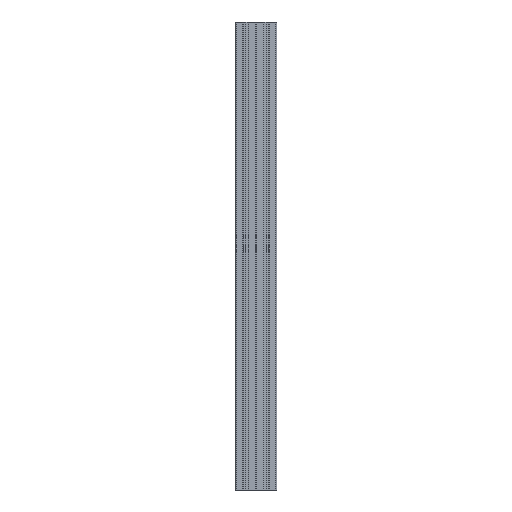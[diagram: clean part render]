
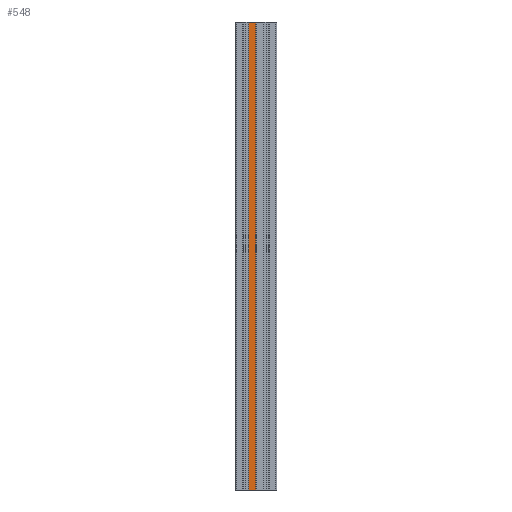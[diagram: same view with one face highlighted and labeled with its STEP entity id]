
A CAD part, front view. The second image highlights one B-rep face of the part: STEP entity #548.
In plain terms, the highlighted planar face has unit normal (0, -1, 0).
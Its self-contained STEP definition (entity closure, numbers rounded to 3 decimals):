
#213 = VERTEX_POINT ( 'NONE', #4164 ) ;
#223 = VERTEX_POINT ( 'NONE', #4521 ) ;
#271 = VERTEX_POINT ( 'NONE', #4141 ) ;
#405 = VERTEX_POINT ( 'NONE', #4376 ) ;
#548 = ADVANCED_FACE ( 'NONE', ( #3568 ), #3973, .F. ) ;
#738 = LINE ( 'NONE', #1724, #846 ) ;
#846 = VECTOR ( 'NONE', #1723, 1000. ) ;
#1664 = DIRECTION ( 'NONE',  ( 0., 0., 1. ) ) ;
#1723 = DIRECTION ( 'NONE',  ( -1., 0., 0. ) ) ;
#1724 = CARTESIAN_POINT ( 'NONE',  ( -16., -22., 0. ) ) ;
#1814 = CARTESIAN_POINT ( 'NONE',  ( -0.3, -22., -1000. ) ) ;
#2202 = CARTESIAN_POINT ( 'NONE',  ( -16., -22., -1000. ) ) ;
#2203 = DIRECTION ( 'NONE',  ( 0., 0., 1. ) ) ;
#2593 = AXIS2_PLACEMENT_3D ( 'NONE', #3993, #4669, #4426 ) ;
#2605 = EDGE_CURVE ( 'NONE', #405, #223, #3152, .T. ) ;
#2664 = EDGE_CURVE ( 'NONE', #405, #213, #3227, .T. ) ;
#2852 = DIRECTION ( 'NONE',  ( -1., 0., 0. ) ) ;
#2855 = CARTESIAN_POINT ( 'NONE',  ( -16., -22., -1000. ) ) ;
#2989 = VECTOR ( 'NONE', #1664, 1000. ) ;
#3151 = VECTOR ( 'NONE', #2852, 1000. ) ;
#3152 = LINE ( 'NONE', #2855, #3151 ) ;
#3227 = LINE ( 'NONE', #1814, #2989 ) ;
#3257 = VECTOR ( 'NONE', #2203, 1000. ) ;
#3350 = LINE ( 'NONE', #2202, #3257 ) ;
#3568 = FACE_OUTER_BOUND ( 'NONE', #6687, .T. ) ;
#3650 = EDGE_CURVE ( 'NONE', #223, #271, #3350, .T. ) ;
#3700 = EDGE_CURVE ( 'NONE', #213, #271, #738, .T. ) ;
#3973 = PLANE ( 'NONE',  #2593 ) ;
#3993 = CARTESIAN_POINT ( 'NONE',  ( -16., -22., -1000. ) ) ;
#4141 = CARTESIAN_POINT ( 'NONE',  ( -16., -22., 0. ) ) ;
#4164 = CARTESIAN_POINT ( 'NONE',  ( -0.3, -22., 0. ) ) ;
#4376 = CARTESIAN_POINT ( 'NONE',  ( -0.3, -22., -1000. ) ) ;
#4426 = DIRECTION ( 'NONE',  ( -1., 0., 0. ) ) ;
#4521 = CARTESIAN_POINT ( 'NONE',  ( -16., -22., -1000. ) ) ;
#4669 = DIRECTION ( 'NONE',  ( 0., 1., 0. ) ) ;
#5907 = ORIENTED_EDGE ( 'NONE', *, *, #3650, .F. ) ;
#6233 = ORIENTED_EDGE ( 'NONE', *, *, #3700, .T. ) ;
#6353 = ORIENTED_EDGE ( 'NONE', *, *, #2664, .T. ) ;
#6687 = EDGE_LOOP ( 'NONE', ( #6233, #5907, #6911, #6353 ) ) ;
#6911 = ORIENTED_EDGE ( 'NONE', *, *, #2605, .F. ) ;
